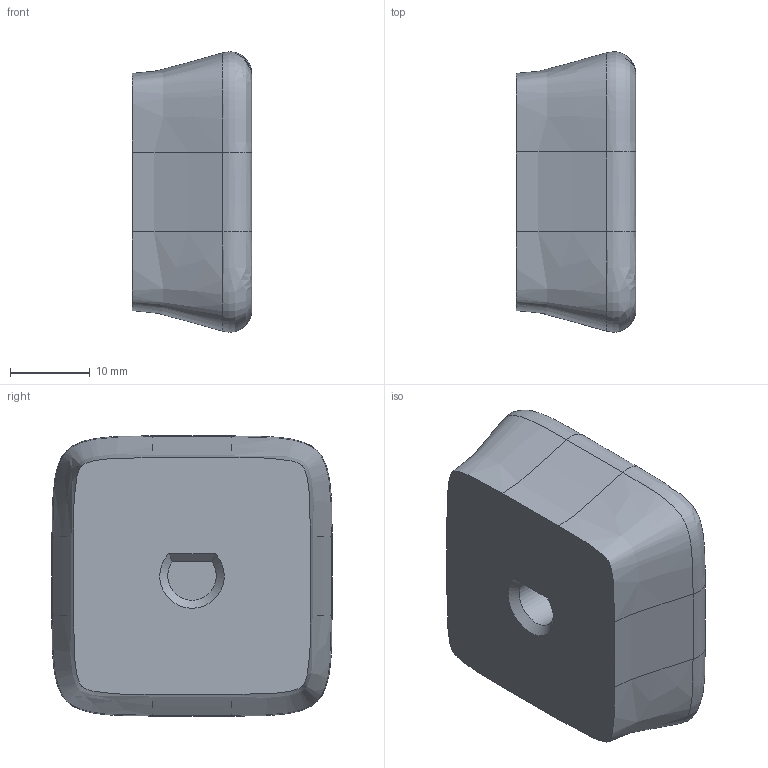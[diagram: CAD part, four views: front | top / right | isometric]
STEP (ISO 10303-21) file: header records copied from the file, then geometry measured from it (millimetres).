
FILE_DESCRIPTION(/* description */ (''),/* implementation_level */ '2;1');
FILE_NAME(/* name */ 'KNOB.step',/* time_stamp */ '2024-02-28T16:21:10Z',/* author */ (''),/* organization */ (''),/* preprocessor_version */ 'ST-DEVELOPER v20',/* originating_system */ 'Autodesk Translation Framework v12.20.1.177',/* authorisation */ '');
FILE_SCHEMA (('AUTOMOTIVE_DESIGN { 1 0 10303 214 3 1 1 }'));
Length unit declared in the file: millimetre
Products named in the file (1): KNOB
Bounding box: 15 x 35.19 x 35.19 mm (x, y, z)
Volume: 15387.1 mm3; surface area: 4002.3 mm2
Topology: 1 solids, 1 shells, 23 faces, 50 edges, 30 vertices
Faces by surface type: bspline 16, plane 5, cone 1, cylinder 1
Entity records: 4452 total; most frequent: CARTESIAN_POINT 4045, ORIENTED_EDGE 100, EDGE_CURVE 50, DIRECTION 31, B_SPLINE_CURVE_WITH_KNOTS 30, VERTEX_POINT 30, EDGE_LOOP 24, FACE_OUTER_BOUND 23
